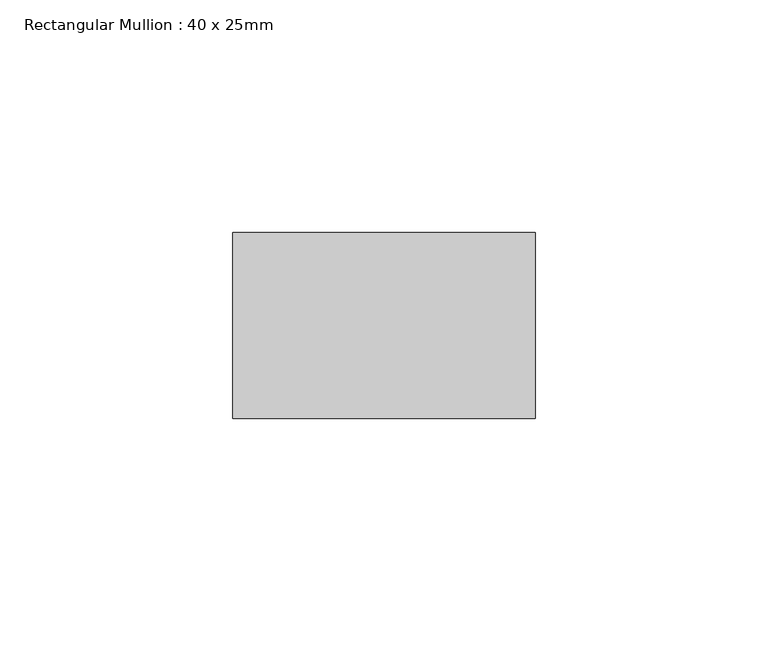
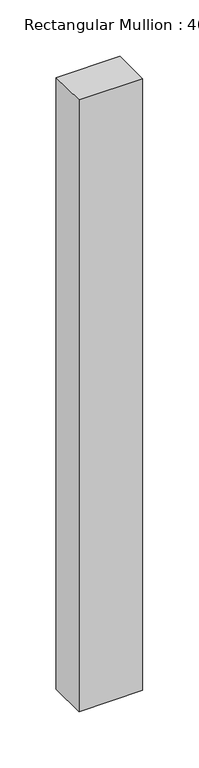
"""IFC4 building model written with IfcOpenShell, lengths in millimetres: member geometry, Rectangular Mullion : 40 x 25mm."""

from ifc_helpers import new_model, si_unit, frame, origin, place, context, project, spatial, polyline, outline, extrude, source, transform, mapped, element, save


def rectangular_mullion_40_x_25mm_619d7cbe(model_context):
    return source(origin(), model_context, "Body", "SweptSolid", [
        extrude(outline(polyline([(0.0, -20.0), (0.0, -60.0), (-65.0, -60.0), (-65.0, -20.0), (0.0, -20.0)])), frame((0.0, 0.0, -661.0015951), z_axis=(0.0, 0.0, 1.0), x_axis=(1.0, 0.0, 0.0)), (0.0, 0.0, 1.0), 661.0015951),
    ])


if __name__ == "__main__":
    model = new_model("IFC4")
    model_context = context("Model", 3, world=origin())
    ifc_project = project(units=[si_unit("LENGTHUNIT", "METRE", prefix="MILLI")], contexts=[model_context])
    site = spatial("IfcSite", under=ifc_project)
    building = spatial("IfcBuilding", under=site)
    placement = place(None, origin())
    rectangular_mullion_40_x_25mm_shape = rectangular_mullion_40_x_25mm_619d7cbe(model_context)
    element("IfcMember", 1, ObjectType="Rectangular Mullion : 40 x 25mm", at=placement, inside=building, context=model_context, shape_type="MappedRepresentation", body=[
        mapped(rectangular_mullion_40_x_25mm_shape, transform((0.0, 0.0, 0.0), x_axis=(1.0, 0.0, 0.0), y_axis=(0.0, 1.0, 0.0), z_axis=(0.0, 0.0, 1.0))),
    ])
    save(model, "model.ifc")
